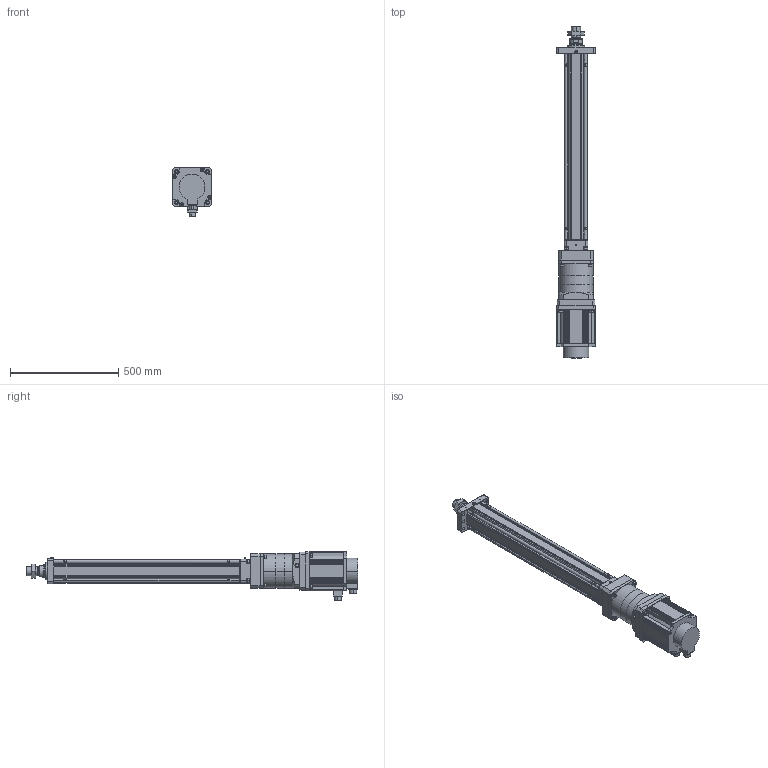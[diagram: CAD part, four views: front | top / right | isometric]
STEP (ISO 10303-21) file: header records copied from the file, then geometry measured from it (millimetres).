
FILE_DESCRIPTION((''),'2;1');
FILE_NAME('HEB100-100-D_ASM','2020-09-10T',('ASUS20200'),(''),'CREO PARAMETRIC BY PTC INC, 2014190','CREO PARAMETRIC BY PTC INC, 2014190','');
FILE_SCHEMA(('CONFIG_CONTROL_DESIGN'));
Length unit declared in the file: millimetre
Products named in the file (32): HEB100-D-P-001-X1; HEB100-D-P-002-X1; HEB100-D-P-008-X1; HEB100-D-P-003-X1; TD-12; SLM-01; YZ-M6X1; M12X60; M12X45; HEB100-D-P-004-X1; HEB100-D-P-005-X1; LM-M42X2; HEB100-100-D-P_ASM; HEB100-D-010-X1-PLF160N; ______12_1_2; __1_1__1_2; __-__25_1_2; PLFK160___1_2_ASM; ASM0002_ASM; TD-10; M10X40; 130__2; _10; 180__-5982; 180__-10214; 21_5N__; 180___-1762; 130__; 180___-6000; SMA-452K20-GJ_1_ASM; SMA-452K20-GJ_ASM; HEB100-100-D_ASM
Assembly tree (61 placements, depth 4):
  HEB100-100-D_ASM
    HEB100-100-D-P_ASM
      HEB100-D-P-001-X1
      HEB100-D-P-002-X1
      HEB100-D-P-008-X1  x4
      HEB100-D-P-003-X1
      TD-12  x8
      SLM-01
      YZ-M6X1
      M12X60  x4
      M12X45  x4
      HEB100-D-P-004-X1
      HEB100-D-P-005-X1
      LM-M42X2
    HEB100-D-010-X1-PLF160N
    ASM0002_ASM
      PLFK160___1_2_ASM
        ______12_1_2
        __1_1__1_2
        __-__25_1_2
    TD-10  x4
    M10X40  x4
    SMA-452K20-GJ_ASM
      SMA-452K20-GJ_1_ASM
        130__2
        _10
        180__-5982
        180__-10214
        21_5N__
        180___-1762
        130__
        180___-6000
    TD-12  x4
    M12X45  x4
Bounding box: 180 x 1534 x 224.92 mm (x, y, z)
Volume: 12863730.7 mm3; surface area: 2337433.4 mm2
Topology: 56 solids, 82 shells, 2421 faces, 5864 edges, 3721 vertices
Faces by surface type: plane 1057, cylinder 804, cone 422, torus 134, bspline 2, sphere 2
Entity records: 56667 total; most frequent: CARTESIAN_POINT 10798, DIRECTION 10035, ORIENTED_EDGE 8944, EDGE_CURVE 4512, AXIS2_PLACEMENT_3D 3778, VERTEX_POINT 2881, VECTOR 2479, LINE 2479
